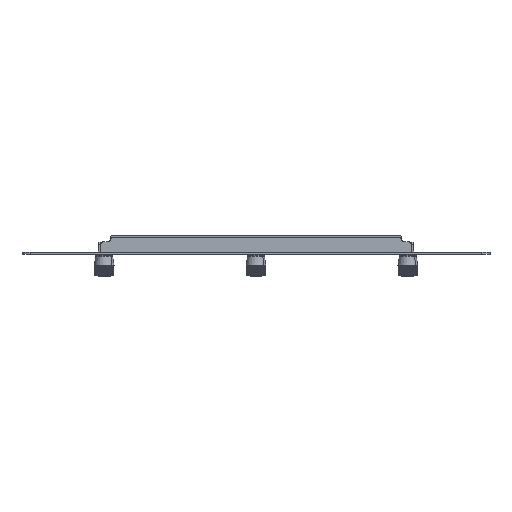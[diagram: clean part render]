
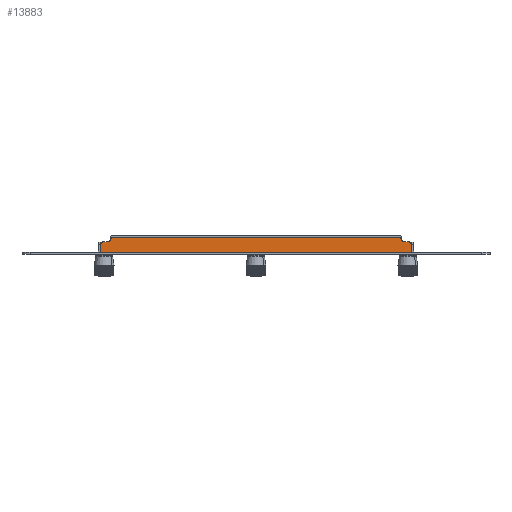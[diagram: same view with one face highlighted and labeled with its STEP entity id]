
A CAD part, front view. The second image highlights one B-rep face of the part: STEP entity #13883.
In plain terms, the highlighted planar face has unit normal (0, -1, 0).
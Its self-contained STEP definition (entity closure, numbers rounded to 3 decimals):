
#4217=DIRECTION('',(1.,0.,0.));
#4218=VECTOR('',#4217,153.2);
#4219=CARTESIAN_POINT('',(-76.6,-23.067,0.2));
#4220=LINE('',#4219,#4218);
#4224=CARTESIAN_POINT('',(-75.6,-23.067,4.2));
#4225=DIRECTION('',(0.,1.,0.));
#4226=DIRECTION('',(-1.,0.,0.));
#4227=AXIS2_PLACEMENT_3D('',#4224,#4225,#4226);
#4232=CARTESIAN_POINT('',(-73.1,-23.067,6.2));
#4233=DIRECTION('',(0.,-1.,0.));
#4234=DIRECTION('',(0.,0.,-1.));
#4235=AXIS2_PLACEMENT_3D('',#4232,#4233,#4234);
#4240=CARTESIAN_POINT('',(-71.1,-23.067,6.2));
#4241=DIRECTION('',(0.,1.,0.));
#4242=DIRECTION('',(-1.,0.,0.));
#4243=AXIS2_PLACEMENT_3D('',#4240,#4241,#4242);
#4248=DIRECTION('',(1.,0.,0.));
#4249=VECTOR('',#4248,142.2);
#4250=CARTESIAN_POINT('',(-71.1,-23.067,7.2));
#4251=LINE('',#4250,#4249);
#4255=CARTESIAN_POINT('',(71.1,-23.067,6.2));
#4256=DIRECTION('',(0.,1.,0.));
#4257=DIRECTION('',(0.,0.,1.));
#4258=AXIS2_PLACEMENT_3D('',#4255,#4256,#4257);
#4263=CARTESIAN_POINT('',(73.1,-23.067,6.2));
#4264=DIRECTION('',(0.,-1.,0.));
#4265=DIRECTION('',(-1.,0.,0.));
#4266=AXIS2_PLACEMENT_3D('',#4263,#4264,#4265);
#4271=DIRECTION('',(1.,0.,0.));
#4272=VECTOR('',#4271,2.5);
#4273=CARTESIAN_POINT('',(73.1,-23.067,5.2));
#4274=LINE('',#4273,#4272);
#4278=CARTESIAN_POINT('',(75.6,-23.067,4.2));
#4279=DIRECTION('',(0.,1.,0.));
#4280=DIRECTION('',(0.,0.,1.));
#4281=AXIS2_PLACEMENT_3D('',#4278,#4279,#4280);
#4286=DIRECTION('',(0.,0.,-1.));
#4287=VECTOR('',#4286,4.);
#4288=CARTESIAN_POINT('',(76.6,-23.067,4.2));
#4289=LINE('',#4288,#4287);
#4307=DIRECTION('',(0.,0.,-1.));
#4308=VECTOR('',#4307,4.);
#4309=CARTESIAN_POINT('',(-76.6,-23.067,4.2));
#4310=LINE('',#4309,#4308);
#4460=DIRECTION('',(-1.,0.,0.));
#4461=VECTOR('',#4460,2.5);
#4462=CARTESIAN_POINT('',(-73.1,-23.067,5.2));
#4463=LINE('',#4462,#4461);
#10651=CARTESIAN_POINT('',(-76.6,-23.067,0.2));
#10652=VERTEX_POINT('',#10651);
#10655=CARTESIAN_POINT('',(76.6,-23.067,0.2));
#10656=VERTEX_POINT('',#10655);
#10731=CARTESIAN_POINT('',(-76.6,-23.067,4.2));
#10732=CARTESIAN_POINT('',(-75.6,-23.067,5.2));
#10733=VERTEX_POINT('',#10731);
#10734=VERTEX_POINT('',#10732);
#10735=CARTESIAN_POINT('',(-73.1,-23.067,5.2));
#10736=VERTEX_POINT('',#10735);
#10737=CARTESIAN_POINT('',(-72.1,-23.067,6.2));
#10738=VERTEX_POINT('',#10737);
#10739=CARTESIAN_POINT('',(-71.1,-23.067,7.2));
#10740=VERTEX_POINT('',#10739);
#10741=CARTESIAN_POINT('',(71.1,-23.067,7.2));
#10742=VERTEX_POINT('',#10741);
#10743=CARTESIAN_POINT('',(72.1,-23.067,6.2));
#10744=VERTEX_POINT('',#10743);
#10745=CARTESIAN_POINT('',(73.1,-23.067,5.2));
#10746=VERTEX_POINT('',#10745);
#10747=CARTESIAN_POINT('',(75.6,-23.067,5.2));
#10748=VERTEX_POINT('',#10747);
#10749=CARTESIAN_POINT('',(76.6,-23.067,4.2));
#10750=VERTEX_POINT('',#10749);
#13853=CARTESIAN_POINT('',(76.6,-23.067,0.2));
#13854=DIRECTION('',(0.,-1.,0.));
#13855=DIRECTION('',(0.,0.,1.));
#13856=AXIS2_PLACEMENT_3D('',#13853,#13854,#13855);
#13857=PLANE('',#13856);
#13859=ORIENTED_EDGE('',*,*,#13858,.T.);
#13861=ORIENTED_EDGE('',*,*,#13860,.F.);
#13863=ORIENTED_EDGE('',*,*,#13862,.T.);
#13865=ORIENTED_EDGE('',*,*,#13864,.T.);
#13867=ORIENTED_EDGE('',*,*,#13866,.T.);
#13869=ORIENTED_EDGE('',*,*,#13868,.T.);
#13871=ORIENTED_EDGE('',*,*,#13870,.T.);
#13873=ORIENTED_EDGE('',*,*,#13872,.T.);
#13875=ORIENTED_EDGE('',*,*,#13874,.T.);
#13877=ORIENTED_EDGE('',*,*,#13876,.T.);
#13878=ORIENTED_EDGE('',*,*,#13848,.F.);
#13880=ORIENTED_EDGE('',*,*,#13879,.F.);
#13881=EDGE_LOOP('',(#13859,#13861,#13863,#13865,#13867,#13869,#13871,#13873,
#13875,#13877,#13878,#13880));
#13882=FACE_OUTER_BOUND('',#13881,.F.);
#4228=CIRCLE('',#4227,1.);
#4236=CIRCLE('',#4235,1.);
#4244=CIRCLE('',#4243,1.);
#4259=CIRCLE('',#4258,1.);
#4267=CIRCLE('',#4266,1.);
#4282=CIRCLE('',#4281,1.);
#13848=EDGE_CURVE('',#10652,#10656,#4220,.T.);
#13858=EDGE_CURVE('',#10733,#10734,#4228,.T.);
#13860=EDGE_CURVE('',#10736,#10734,#4463,.T.);
#13862=EDGE_CURVE('',#10736,#10738,#4236,.T.);
#13864=EDGE_CURVE('',#10738,#10740,#4244,.T.);
#13866=EDGE_CURVE('',#10740,#10742,#4251,.T.);
#13868=EDGE_CURVE('',#10742,#10744,#4259,.T.);
#13870=EDGE_CURVE('',#10744,#10746,#4267,.T.);
#13872=EDGE_CURVE('',#10746,#10748,#4274,.T.);
#13874=EDGE_CURVE('',#10748,#10750,#4282,.T.);
#13876=EDGE_CURVE('',#10750,#10656,#4289,.T.);
#13879=EDGE_CURVE('',#10733,#10652,#4310,.T.);
#13883=ADVANCED_FACE('',(#13882),#13857,.T.);
